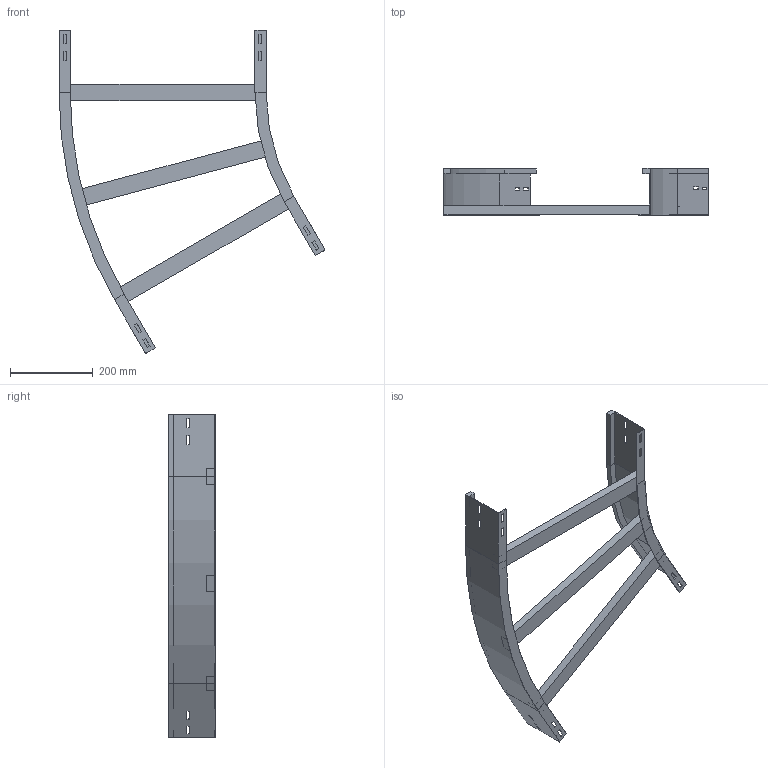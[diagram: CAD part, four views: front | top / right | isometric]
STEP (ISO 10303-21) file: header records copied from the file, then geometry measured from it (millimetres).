
FILE_DESCRIPTION (( 'STEP AP214' ), '1' );
FILE_NAME ('12B5J500.step', '2025-02-21T15:08:26', ( '' ), ( '' ), 'SwSTEP 2.0', 'SolidWorks 2023', '' );
FILE_SCHEMA (( 'AUTOMOTIVE_DESIGN' ));
Length unit declared in the file: millimetre
Products named in the file (4): 12B5J500; A2_LONGH.INTERNO 30°_H112.5_R500; A2_LONGH.ESTERNO 30°_H112.5_R500+500; TRAVERSINO_500
Assembly tree (5 placements, depth 2):
  12B5J500
    A2_LONGH.INTERNO 30°_H112.5_R500
    A2_LONGH.ESTERNO 30°_H112.5_R500+500
    TRAVERSINO_500  x3
Bounding box: 641.99 x 112.5 x 779.9 mm (x, y, z)
Volume: 1847332.9 mm3; surface area: 614562.8 mm2
Topology: 5 solids, 5 shells, 134 faces, 340 edges, 216 vertices
Faces by surface type: plane 126, cylinder 8
Entity records: 3821 total; most frequent: CARTESIAN_POINT 646, ORIENTED_EDGE 632, DIRECTION 592, EDGE_CURVE 316, LINE 300, VECTOR 300, VERTEX_POINT 200, EDGE_LOOP 154
